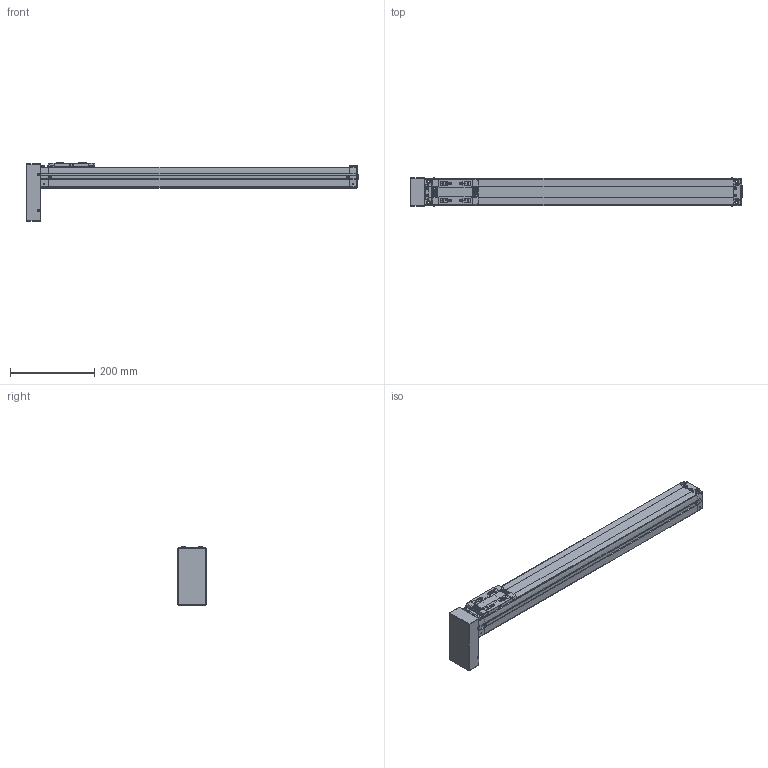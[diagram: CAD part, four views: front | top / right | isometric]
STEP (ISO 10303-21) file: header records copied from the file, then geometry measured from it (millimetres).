
FILE_DESCRIPTION(('STEP AP203'),'1');
FILE_NAME('Z:/Web/3D/SAN65/2012.ver/STP/600/SAN65ㅁㅁ-600PB.stp','2014-06-13T04:43:18',(' '),(' '),'Spatial InterOp 3D',' ',' ');
FILE_SCHEMA(('CONFIG_CONTROL_DESIGN'));
Length unit declared in the file: millimetre
Products named in the file (28): 1; 2; 3; 4; 5; 6; 7; 8; 9; 10; 11; 12; 13; 14; 15; 16; 17; 18; 19; 20; 21; 22; 23; 24; 25; 26; 27; 28
Bounding box: 790.15 x 71.13 x 138.5 mm (x, y, z)
Volume: 2708560 mm3; surface area: 296674.1 mm2
Topology: 28 solids, 28 shells, 1787 faces, 4652 edges, 2975 vertices
Faces by surface type: plane 891, cylinder 629, cone 175, sphere 40, bspline 28, torus 18, extrusion 6
Full cylindrical faces by diameter (mm): 2.132 x1, 3.5 x2, 6 x2
Entity records: 58207 total; most frequent: CARTESIAN_POINT 12284, DIRECTION 9652, ORIENTED_EDGE 9096, EDGE_CURVE 4548, AXIS2_PLACEMENT_3D 3419, VERTEX_POINT 2974, VECTOR 2814, LINE 2808
